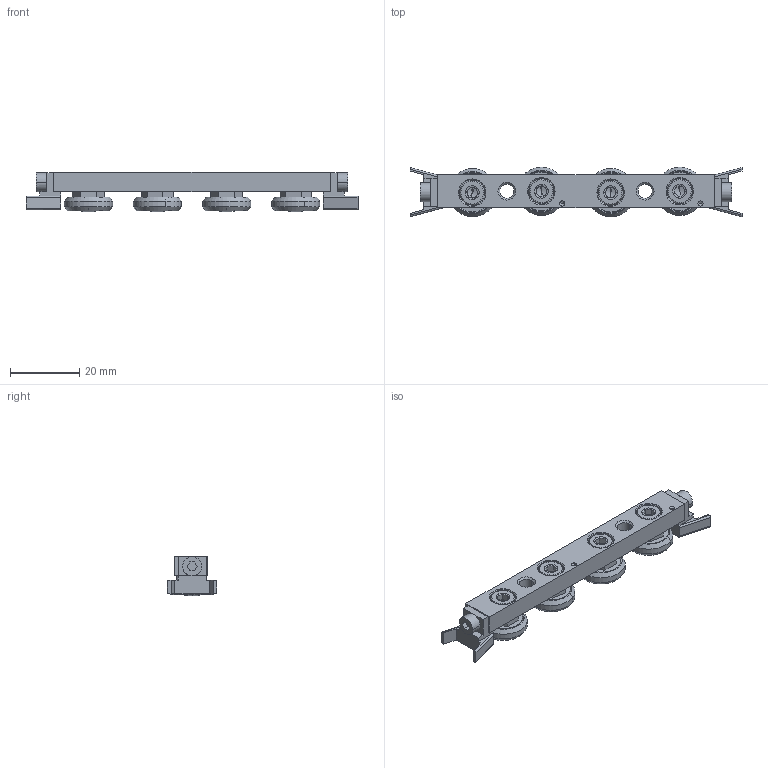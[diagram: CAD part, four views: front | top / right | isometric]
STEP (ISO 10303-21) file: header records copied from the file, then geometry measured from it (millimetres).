
FILE_DESCRIPTION (( 'STEP AP203' ), '1' );
FILE_NAME ('L1918.CSW18-80-2RSUA.step', '2019-06-29T22:03:57', ( '' ), ( '' ), 'SwSTEP 2.0', 'SolidWorks 2017', '' );
FILE_SCHEMA (( 'CONFIG_CONTROL_DESIGN' ));
Length unit declared in the file: millimetre
Products named in the file (6): Part5; Part1_L1918.CSW18-80-2RSUA; Part7; Part4; Part8; L1918.CSW18-80-2RSUA
Assembly tree (12 placements, depth 2):
  L1918.CSW18-80-2RSUA
    Part1_L1918.CSW18-80-2RSUA
    Part8  x5
    Part4  x2
    Part5  x2
    Part7  x2
Bounding box: 96 x 14.33 x 11.54 mm (x, y, z)
Volume: 7282.2 mm3; surface area: 7145 mm2
Topology: 12 solids, 12 shells, 390 faces, 910 edges, 563 vertices
Faces by surface type: plane 194, cone 104, cylinder 74, torus 18
Entity records: 6341 total; most frequent: CARTESIAN_POINT 1042, DIRECTION 1002, ORIENTED_EDGE 872, EDGE_CURVE 436, AXIS2_PLACEMENT_3D 380, VERTEX_POINT 279, LINE 242, VECTOR 242
